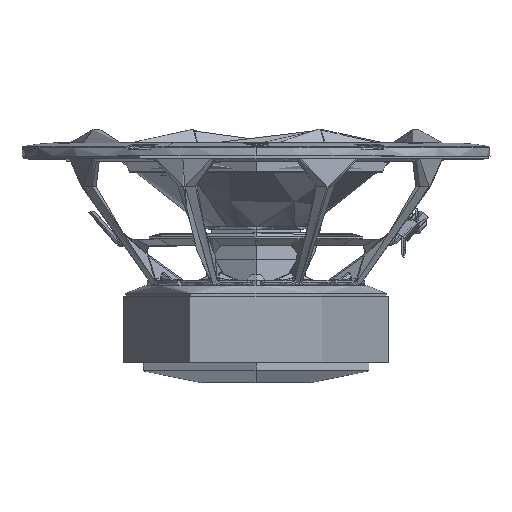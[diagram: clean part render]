
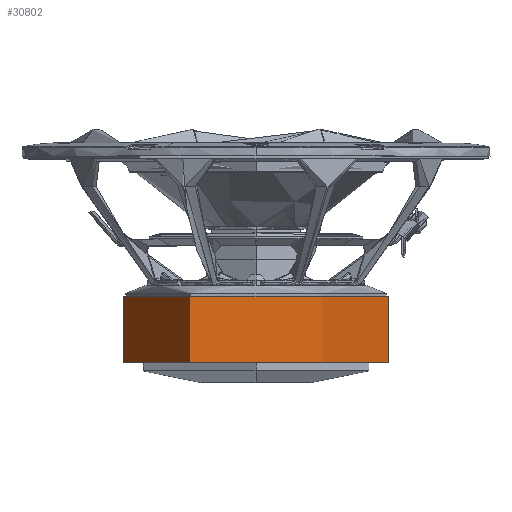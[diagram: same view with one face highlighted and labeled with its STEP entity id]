
A CAD part, top view. The second image highlights one B-rep face of the part: STEP entity #30802.
In plain terms, the highlighted cylindrical face has radius 50 mm (diameter 100 mm), a partial arc.
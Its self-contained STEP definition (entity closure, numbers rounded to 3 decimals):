
#13549 = CARTESIAN_POINT ( 'NONE',  ( 0., 32.5, 0. ) ) ;
#24043 = DIRECTION ( 'NONE',  ( 0., 1., 0. ) ) ;
#24901 = CARTESIAN_POINT ( 'NONE',  ( 0., 7.5, 0. ) ) ;
#30802 = ADVANCED_FACE ( 'NONE', ( #87153 ), #112320, .T. ) ;
#41010 = DIRECTION ( 'NONE',  ( 1., 0., 0. ) ) ;
#42995 = EDGE_CURVE ( 'NONE', #91453, #83753, #158210, .T. ) ;
#62665 = CARTESIAN_POINT ( 'NONE',  ( -50., 32.5, 0. ) ) ;
#64321 = VECTOR ( 'NONE', #82822, 1000. ) ;
#71468 = DIRECTION ( 'NONE',  ( 1., 0., 0. ) ) ;
#82822 = DIRECTION ( 'NONE',  ( 0., -1., 0. ) ) ;
#83753 = VERTEX_POINT ( 'NONE', #163714 ) ;
#87153 = FACE_OUTER_BOUND ( 'NONE', #246913, .T. ) ;
#91453 = VERTEX_POINT ( 'NONE', #227655 ) ;
#97371 = VERTEX_POINT ( 'NONE', #255025 ) ;
#98674 = CIRCLE ( 'NONE', #140250, 50. ) ;
#111629 = EDGE_CURVE ( 'NONE', #166709, #97371, #98674, .T. ) ;
#111641 = ORIENTED_EDGE ( 'NONE', *, *, #226648, .T. ) ;
#112320 = CYLINDRICAL_SURFACE ( 'NONE', #141517, 50. ) ;
#113440 = ORIENTED_EDGE ( 'NONE', *, *, #232327, .F. ) ;
#116914 = ORIENTED_EDGE ( 'NONE', *, *, #42995, .T. ) ;
#123495 = VECTOR ( 'NONE', #129426, 1000. ) ;
#127184 = LINE ( 'NONE', #62665, #64321 ) ;
#129426 = DIRECTION ( 'NONE',  ( 0., -1., 0. ) ) ;
#140250 = AXIS2_PLACEMENT_3D ( 'NONE', #180496, #259496, #41010 ) ;
#141517 = AXIS2_PLACEMENT_3D ( 'NONE', #13549, #152168, #71468 ) ;
#152168 = DIRECTION ( 'NONE',  ( 0., -1., 0. ) ) ;
#158210 = CIRCLE ( 'NONE', #204534, 50. ) ;
#163714 = CARTESIAN_POINT ( 'NONE',  ( 50., 7.5, 0. ) ) ;
#166709 = VERTEX_POINT ( 'NONE', #257917 ) ;
#170494 = LINE ( 'NONE', #208388, #123495 ) ;
#180496 = CARTESIAN_POINT ( 'NONE',  ( 0., 32.5, 0. ) ) ;
#204534 = AXIS2_PLACEMENT_3D ( 'NONE', #24901, #24043, #226650 ) ;
#208388 = CARTESIAN_POINT ( 'NONE',  ( 50., 32.5, 0. ) ) ;
#216108 = ORIENTED_EDGE ( 'NONE', *, *, #111629, .T. ) ;
#226648 = EDGE_CURVE ( 'NONE', #97371, #91453, #127184, .T. ) ;
#226650 = DIRECTION ( 'NONE',  ( 1., 0., 0. ) ) ;
#227655 = CARTESIAN_POINT ( 'NONE',  ( -50., 7.5, 0. ) ) ;
#232327 = EDGE_CURVE ( 'NONE', #166709, #83753, #170494, .T. ) ;
#246913 = EDGE_LOOP ( 'NONE', ( #216108, #111641, #116914, #113440 ) ) ;
#255025 = CARTESIAN_POINT ( 'NONE',  ( -50., 32.5, 0. ) ) ;
#257917 = CARTESIAN_POINT ( 'NONE',  ( 50., 32.5, 0. ) ) ;
#259496 = DIRECTION ( 'NONE',  ( 0., -1., 0. ) ) ;
